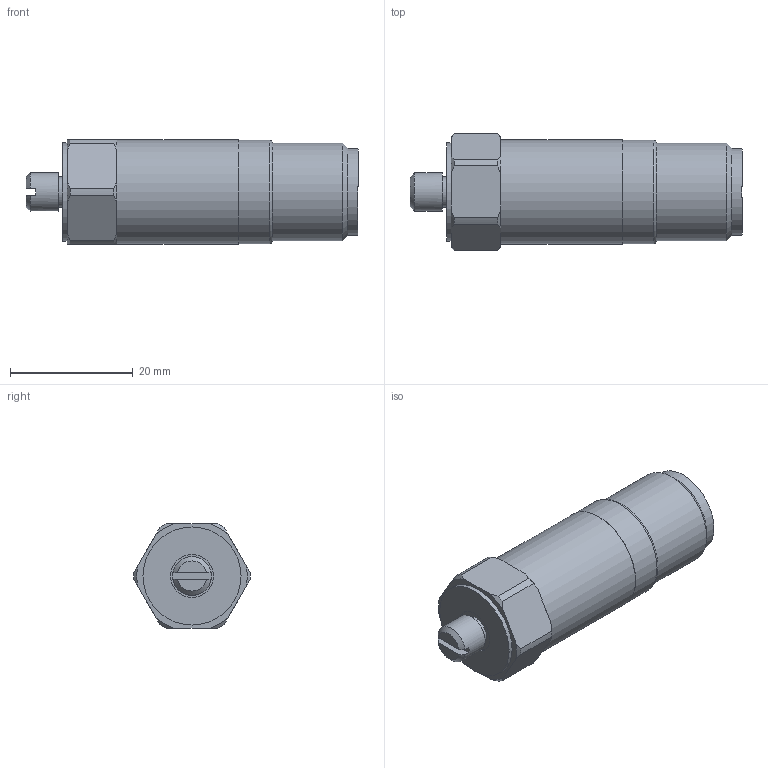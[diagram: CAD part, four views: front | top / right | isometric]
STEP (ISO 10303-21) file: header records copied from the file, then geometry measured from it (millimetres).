
FILE_DESCRIPTION(/* description */ (''),/* implementation_level */ '2;1');
FILE_NAME(/* name */ 'Z:\Engineering\Drawings\3D Library\Assemblies\Website\Premium Top\Compact\HS-170 Top 2 Pin MS\HS-1700105002.stp',/* time_stamp */ '2023-03-16T16:34:52+00:00',/* author */ ('Ricardo.Peneda'),/* organization */ (''),/* preprocessor_version */ 'ST-DEVELOPER v18.1',/* originating_system */ 'Autodesk Inventor 2021',/* authorisation */ '');
FILE_SCHEMA (('AUTOMOTIVE_DESIGN { 1 0 10303 214 3 1 1 }'));
Length unit declared in the file: inch
Products named in the file (1): HS-1700105002_Shrinkwrap_1
Bounding box: 54.2 x 19 x 17 mm (x, y, z)
Volume: 5726.6 mm3; surface area: 5554.8 mm2
Topology: 3 solids, 3 shells, 78 faces, 202 edges, 140 vertices
Faces by surface type: plane 36, cylinder 22, cone 19, torus 1
Full cylindrical faces by diameter (mm): 4.914 x2, 5.359 x1, 6.34 x2, 7 x1, 7.027 x1, 10.4 x1, 11.5 x1, 14.2 x1, 15.05 x1, 15.5 x1, 15.9 x1, 16 x1, 16.9 x1, 17 x1
Entity records: 2540 total; most frequent: CARTESIAN_POINT 484, DIRECTION 431, ORIENTED_EDGE 402, EDGE_CURVE 201, AXIS2_PLACEMENT_3D 183, VERTEX_POINT 140, CIRCLE 104, EDGE_LOOP 89
